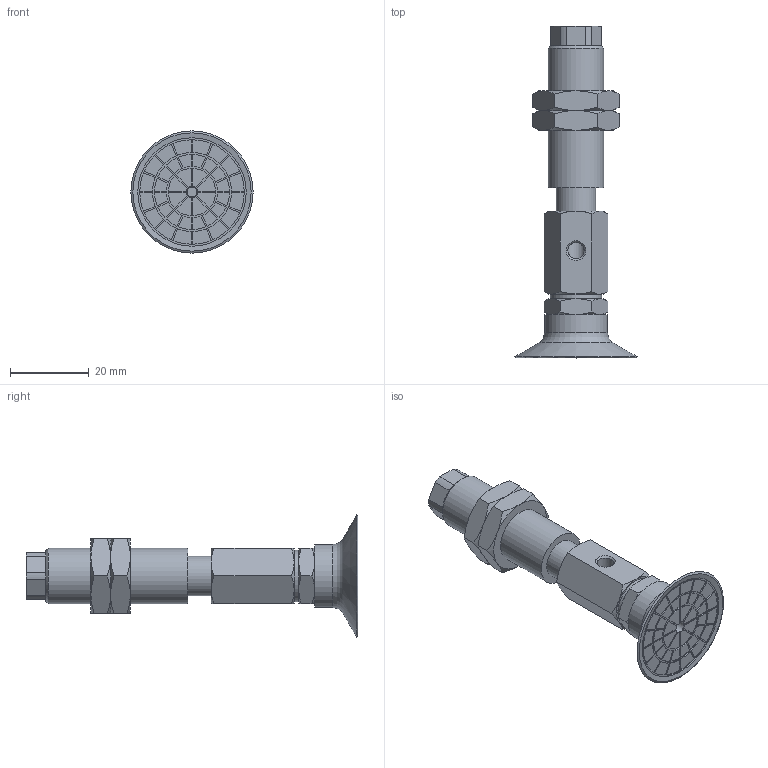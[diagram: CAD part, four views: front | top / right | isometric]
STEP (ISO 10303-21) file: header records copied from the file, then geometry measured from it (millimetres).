
FILE_DESCRIPTION(('STEP AP203'),'1');
FILE_NAME('.stp','2025-02-28T06:21:33',(' '),(' '),'Spatial InterOp 3D',' ',' ');
FILE_SCHEMA(('CONFIG_CONTROL_DESIGN'));
Length unit declared in the file: millimetre
Products named in the file (7): BNABPAYS-30B-6-※; NAPAYS-30B-6--M; NAPAYS-30B-6--F; Nut-25-S; CONNECTOR-30B-6-PA; TN-PA-30B-M6; BPAG-30B-※_3D
Assembly tree (7 placements, depth 2):
  BNABPAYS-30B-6-※
    NAPAYS-30B-6--M
    NAPAYS-30B-6--F
    Nut-25-S  x2
    CONNECTOR-30B-6-PA
    TN-PA-30B-M6
    BPAG-30B-※_3D
Bounding box: 31.04 x 84.2 x 31.04 mm (x, y, z)
Volume: 15334.4 mm3; surface area: 11714 mm2
Topology: 7 solids, 7 shells, 364 faces, 843 edges, 538 vertices
Faces by surface type: plane 195, cylinder 98, cone 65, torus 6
Full cylindrical faces by diameter (mm): 2.5 x1, 3 x2, 4.134 x2, 4.917 x1, 5 x1, 6 x3, 10 x4, 12.917 x2, 13 x1, 14 x1, 16 x1, 27.5 x1
Entity records: 10122 total; most frequent: CARTESIAN_POINT 2044, DIRECTION 1642, ORIENTED_EDGE 1500, EDGE_CURVE 750, AXIS2_PLACEMENT_3D 618, VERTEX_POINT 504, EDGE_LOOP 436, LINE 406
